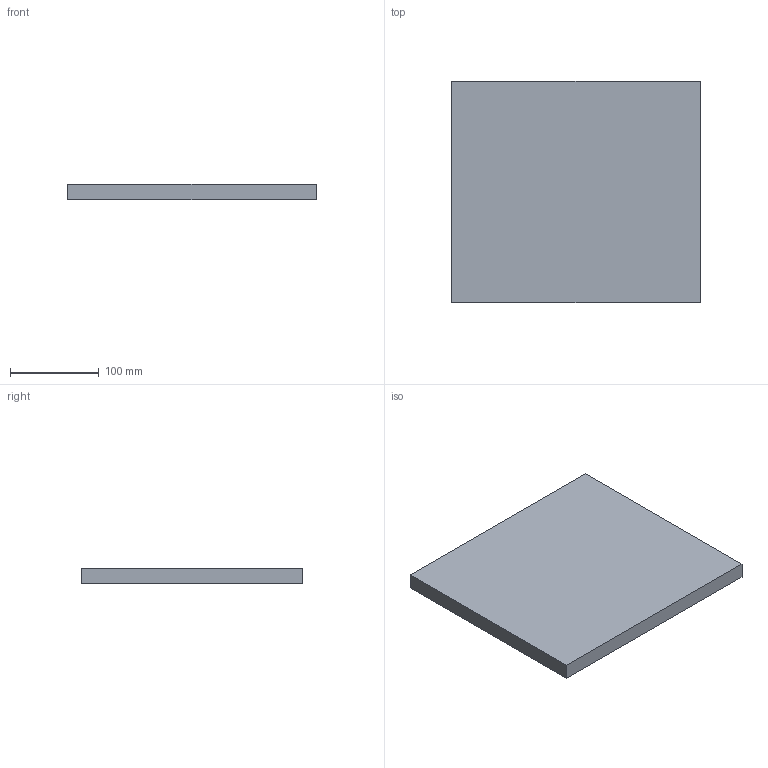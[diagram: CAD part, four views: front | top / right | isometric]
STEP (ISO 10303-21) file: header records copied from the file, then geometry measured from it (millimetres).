
FILE_DESCRIPTION(('Open CASCADE Model'),'2;1');
FILE_NAME('Open CASCADE Shape Model','2026-10-13T11:47:38',('Author'),( 'Open CASCADE'),'Open CASCADE STEP processor 7.8','Open CASCADE 7.8' ,'Unknown');
FILE_SCHEMA(('AUTOMOTIVE_DESIGN { 1 0 10303 214 1 1 1 1 }'));
Length unit declared in the file: millimetre
Products named in the file (1): Open CASCADE STEP translator 7.8 127
Bounding box: 280 x 250 x 18 mm (x, y, z)
Volume: 1260000 mm3; surface area: 159080 mm2
Topology: 1 solids, 1 shells, 6 faces, 12 edges, 8 vertices
Faces by surface type: plane 6
Entity records: 322 total; most frequent: CARTESIAN_POINT 51, DIRECTION 50, LINE 36, VECTOR 36, ORIENTED_EDGE 24, PCURVE 24, DEFINITIONAL_REPRESENTATION 24, EDGE_CURVE 12
